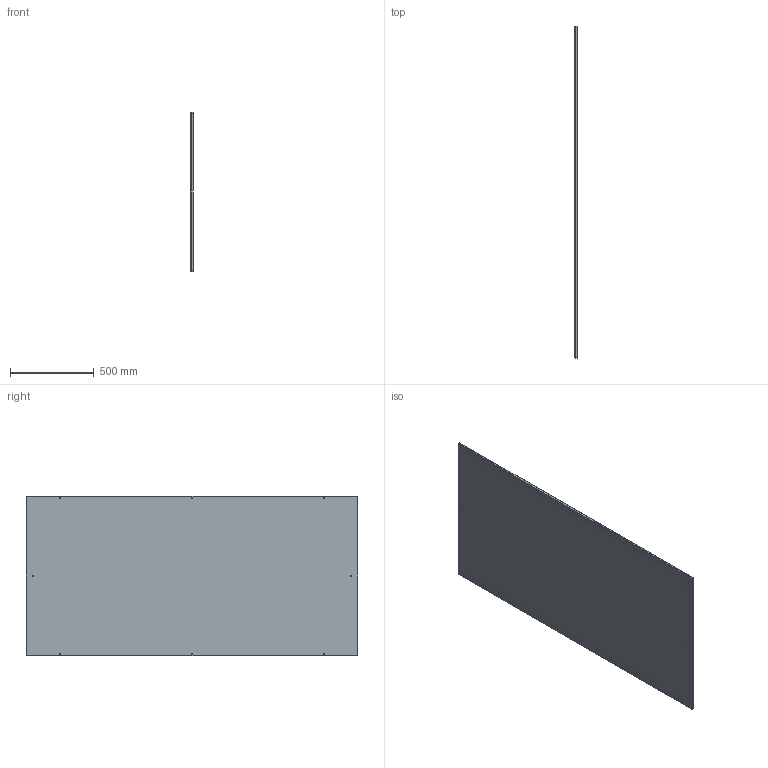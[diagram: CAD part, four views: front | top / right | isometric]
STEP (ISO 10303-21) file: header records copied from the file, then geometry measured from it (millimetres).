
FILE_DESCRIPTION(('STEP AP203'), '1');
FILE_NAME('Ïàíåëü áîêîâàÿ 2000õ1000 ìì IP55 OptiBox M (2 øò) 419654 ÊÝÀÇ', '', ('UNSPECIFIED'), ('UNSPECIFIED'), 'C3D Converter', 'C3D Toolkit', '');
FILE_SCHEMA(('CONFIG_CONTROL_DESIGN'));
Length unit declared in the file: millimetre
Bounding box: 14 x 1986 x 957 mm (x, y, z)
Volume: 3283964.4 mm3; surface area: 4176613.9 mm2
Topology: 4 solids, 4 shells, 143 faces, 308 edges, 180 vertices
Faces by surface type: plane 83, cylinder 52, bspline 8
Full cylindrical faces by diameter (mm): 0.75 x2, 1 x2, 6 x2, 7.1 x8, 7.5 x2, 20 x8
Entity records: 6060 total; most frequent: CARTESIAN_POINT 1984, DIRECTION 604, ORIENTED_EDGE 568, EDGE_CURVE 284, AXIS2_PLACEMENT_3D 220, EDGE_LOOP 192, VERTEX_POINT 180, LINE 164
